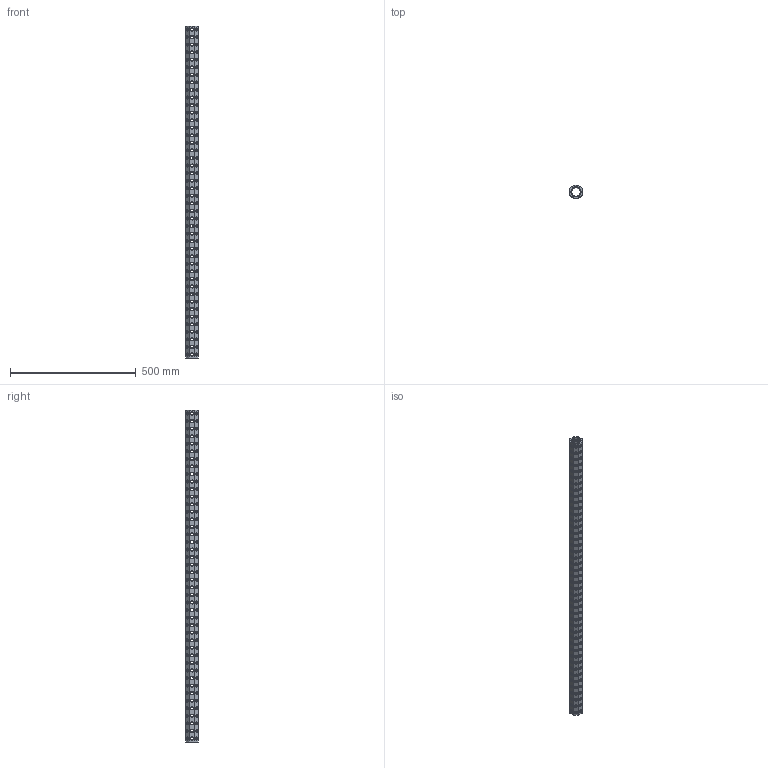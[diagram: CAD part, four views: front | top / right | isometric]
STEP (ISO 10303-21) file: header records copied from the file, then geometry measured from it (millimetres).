
FILE_DESCRIPTION(('CATIA V5 STEP Exchange'),'2;1');
FILE_NAME('U:\Room\唐宝山\EGT002\46-01-010273-01-EGT002-1318.stp','2021-08-24T01:21:44+00:00',('none'),('none'),'CATIA Version 5 Release 21 GA (IN-10)','CATIA V5 STEP AP203','none');
FILE_SCHEMA(('CONFIG_CONTROL_DESIGN'));
Products named in the file (1): 46-01-010273-01-EGT002-1318
Bounding box: 50 x 50 x 1318 mm (x, y, z)
Volume: 938976.2 mm3; surface area: 453307.1 mm2
Topology: 1 solids, 1 shells, 1844 faces, 5086 edges, 3156 vertices
Faces by surface type: cone 1056, cylinder 762, plane 26
Entity records: 74962 total; most frequent: CARTESIAN_POINT 30223, ORIENTED_EDGE 10172, DIRECTION 7211, EDGE_CURVE 5086, AXIS2_PLACEMENT_3D 3390, VERTEX_POINT 3156, EDGE_LOOP 2462, VECTOR 1978
